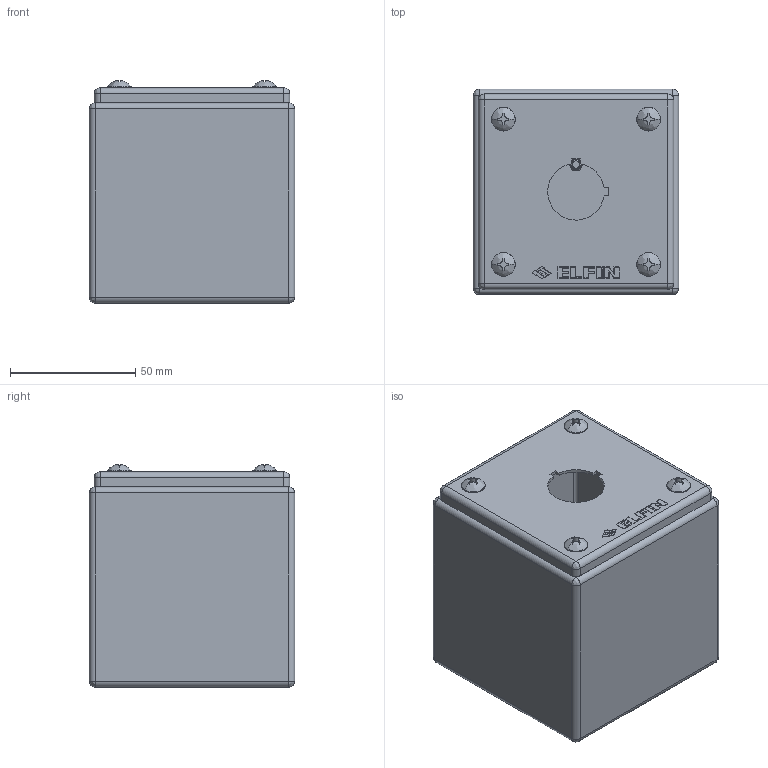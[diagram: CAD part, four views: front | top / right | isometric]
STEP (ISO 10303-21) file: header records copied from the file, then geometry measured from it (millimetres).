
FILE_DESCRIPTION (( 'STEP AP214' ), '1' );
FILE_NAME ('040X0808-8P1.STEP', '2025-05-07T14:28:41', ( '' ), ( '' ), 'SwSTEP 2.0', 'SolidWorks 2013', '' );
FILE_SCHEMA (( 'AUTOMOTIVE_DESIGN' ));
Length unit declared in the file: millimetre
Products named in the file (1): 040X0808-8P1
Bounding box: 82 x 82 x 88.8 mm (x, y, z)
Volume: 49875.3 mm3; surface area: 83936.4 mm2
Topology: 11 solids, 11 shells, 434 faces, 1049 edges, 631 vertices
Faces by surface type: plane 258, cylinder 102, bspline 48, cone 24, torus 2
Entity records: 18006 total; most frequent: CARTESIAN_POINT 3243, ORIENTED_EDGE 2050, DIRECTION 1990, EDGE_CURVE 1025, VECTOR 674, LINE 674, AXIS2_PLACEMENT_3D 658, VERTEX_POINT 631
